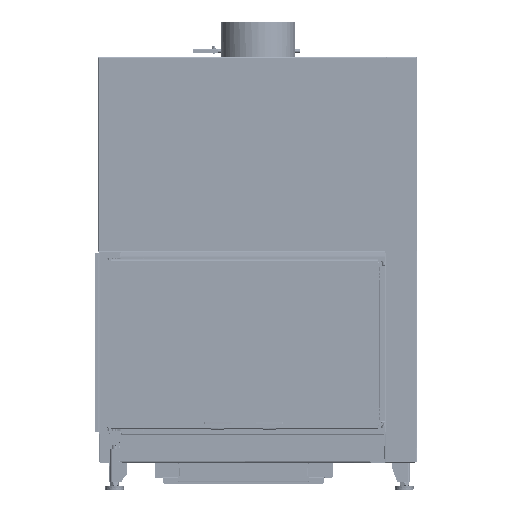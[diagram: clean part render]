
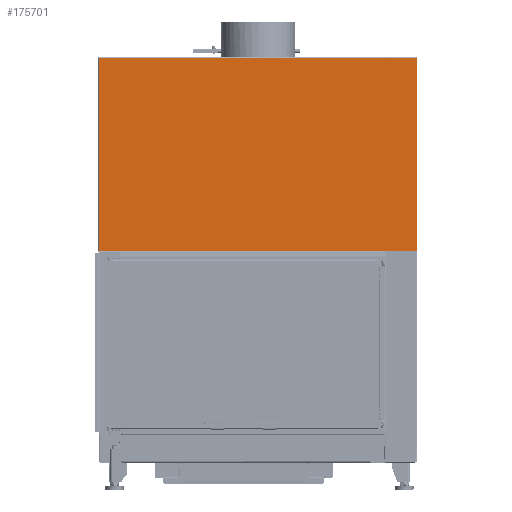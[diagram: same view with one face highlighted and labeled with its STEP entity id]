
A CAD part, front view. The second image highlights one B-rep face of the part: STEP entity #175701.
In plain terms, the highlighted planar face has unit normal (0, -1, 0).
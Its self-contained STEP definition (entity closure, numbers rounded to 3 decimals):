
#4813=PLANE('',#188000);
#9293=LINE('',#256957,#25733);
#9297=LINE('',#256966,#25737);
#9299=LINE('',#256970,#25739);
#13955=LINE('',#275127,#30395);
#13963=LINE('',#275144,#30403);
#13964=LINE('',#275147,#30404);
#13965=LINE('',#275149,#30405);
#13966=LINE('',#275150,#30406);
#25733=VECTOR('',#201976,10.);
#25737=VECTOR('',#201986,10.);
#25739=VECTOR('',#201990,10.);
#30395=VECTOR('',#216200,10.);
#30403=VECTOR('',#216212,10.);
#30404=VECTOR('',#216215,10.);
#30405=VECTOR('',#216216,10.);
#30406=VECTOR('',#216217,10.);
#48103=FACE_OUTER_BOUND('',#57725,.T.);
#57725=EDGE_LOOP('',(#129890,#129891,#129892,#129893,#129894,#129895,#129896,
#129897,#129898,#129899,#129900));
#64776=CIRCLE('',#183219,0.1);
#64778=CIRCLE('',#183224,3.);
#66911=CIRCLE('',#188001,3.);
#72353=VERTEX_POINT('',#256954);
#72354=VERTEX_POINT('',#256956);
#72355=VERTEX_POINT('',#256960);
#72356=VERTEX_POINT('',#256964);
#72357=VERTEX_POINT('',#256968);
#72359=VERTEX_POINT('',#256974);
#76895=VERTEX_POINT('',#275124);
#76896=VERTEX_POINT('',#275126);
#76903=VERTEX_POINT('',#275143);
#76904=VERTEX_POINT('',#275146);
#76905=VERTEX_POINT('',#275148);
#88702=EDGE_CURVE('',#72353,#72354,#9293,.T.);
#88705=EDGE_CURVE('',#72355,#72353,#64776,.T.);
#88707=EDGE_CURVE('',#72356,#72355,#9297,.T.);
#88709=EDGE_CURVE('',#72357,#72356,#9299,.T.);
#88712=EDGE_CURVE('',#72357,#72359,#64778,.T.);
#95968=EDGE_CURVE('',#76895,#76896,#13955,.T.);
#95976=EDGE_CURVE('',#76903,#72359,#13963,.T.);
#95977=EDGE_CURVE('',#76903,#76896,#66911,.T.);
#95978=EDGE_CURVE('',#76904,#76895,#13964,.T.);
#95979=EDGE_CURVE('',#76905,#76904,#13965,.T.);
#95980=EDGE_CURVE('',#72354,#76905,#13966,.T.);
#129890=ORIENTED_EDGE('',*,*,#88712,.T.);
#129891=ORIENTED_EDGE('',*,*,#95976,.F.);
#129892=ORIENTED_EDGE('',*,*,#95977,.T.);
#129893=ORIENTED_EDGE('',*,*,#95968,.F.);
#129894=ORIENTED_EDGE('',*,*,#95978,.F.);
#129895=ORIENTED_EDGE('',*,*,#95979,.F.);
#129896=ORIENTED_EDGE('',*,*,#95980,.F.);
#129897=ORIENTED_EDGE('',*,*,#88702,.F.);
#129898=ORIENTED_EDGE('',*,*,#88705,.F.);
#129899=ORIENTED_EDGE('',*,*,#88707,.F.);
#129900=ORIENTED_EDGE('',*,*,#88709,.F.);
#175701=ADVANCED_FACE('',(#48103),#4813,.F.);
#183219=AXIS2_PLACEMENT_3D('',#256962,#201981,#201982);
#183224=AXIS2_PLACEMENT_3D('',#256976,#201996,#201997);
#188000=AXIS2_PLACEMENT_3D('',#275142,#216210,#216211);
#188001=AXIS2_PLACEMENT_3D('',#275145,#216213,#216214);
#201976=DIRECTION('',(0.,0.,-1.));
#201981=DIRECTION('center_axis',(0.,-1.,
0.));
#201982=DIRECTION('ref_axis',(-1.,0.,0.));
#201986=DIRECTION('',(0.,0.,1.));
#201990=DIRECTION('',(-1.,0.,0.));
#201996=DIRECTION('center_axis',(0.,-1.,
0.));
#201997=DIRECTION('ref_axis',(0.707,0.,-0.707));
#216200=DIRECTION('',(1.,0.,0.));
#216210=DIRECTION('center_axis',(0.,1.,
0.));
#216211=DIRECTION('ref_axis',(-1.,0.,0.));
#216212=DIRECTION('',(0.,0.,-1.));
#216213=DIRECTION('center_axis',(0.,-1.,
0.));
#216214=DIRECTION('ref_axis',(0.707,0.,0.707));
#216215=DIRECTION('',(1.,0.,0.));
#216216=DIRECTION('',(0.,0.,1.));
#216217=DIRECTION('',(-1.,0.,0.));
#256954=CARTESIAN_POINT('',(-87.4,-59.983,582.359));
#256956=CARTESIAN_POINT('',(-87.4,-59.983,582.259));
#256957=CARTESIAN_POINT('',(-87.4,-59.979,715.947));
#256960=CARTESIAN_POINT('',(-87.2,-59.983,582.359));
#256962=CARTESIAN_POINT('Origin',(-87.3,-59.983,582.359));
#256964=CARTESIAN_POINT('',(-87.2,-59.983,582.259));
#256966=CARTESIAN_POINT('',(-87.2,-59.979,715.997));
#256968=CARTESIAN_POINT('',(-3.,-59.983,582.259));
#256970=CARTESIAN_POINT('',(0.,-59.983,582.259));
#256974=CARTESIAN_POINT('',(0.,-59.983,585.259));
#256976=CARTESIAN_POINT('Origin',(-3.,-59.983,585.259));
#275124=CARTESIAN_POINT('',(-84.15,-59.968,1114.259));
#275126=CARTESIAN_POINT('',(-3.,-59.968,1114.259));
#275127=CARTESIAN_POINT('',(-84.15,-59.968,1114.259));
#275142=CARTESIAN_POINT('Origin',(-480.775,-59.975,849.634));
#275143=CARTESIAN_POINT('',(0.,-59.968,1111.259));
#275144=CARTESIAN_POINT('',(0.,-59.968,1114.259));
#275145=CARTESIAN_POINT('Origin',(-3.,-59.968,1111.259));
#275146=CARTESIAN_POINT('',(-874.65,-59.968,1114.259));
#275147=CARTESIAN_POINT('',(-679.088,-59.968,1114.259));
#275148=CARTESIAN_POINT('',(-874.65,-59.983,582.259));
#275149=CARTESIAN_POINT('',(-874.65,-59.979,715.947));
#275150=CARTESIAN_POINT('',(0.,-59.983,582.259));
